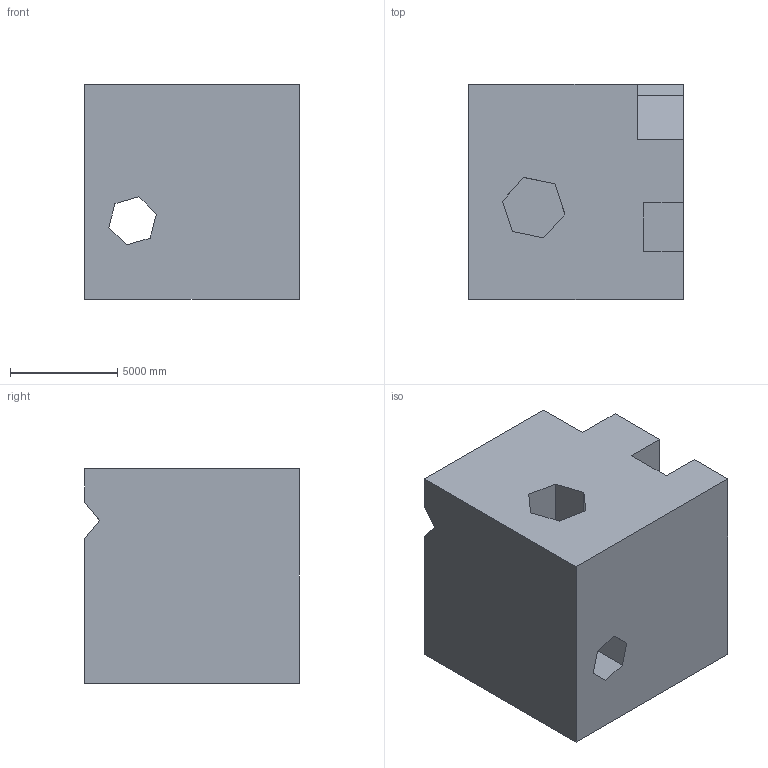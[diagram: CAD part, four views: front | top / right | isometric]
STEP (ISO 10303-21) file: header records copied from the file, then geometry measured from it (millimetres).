
FILE_DESCRIPTION (( 'STEP AP203' ), '1' );
FILE_NAME ('556.STEP', '2022-07-29T11:48:19', ( 'user' ), ( '' ), 'SwSTEP 2.0', 'SolidWorks 2021', '' );
FILE_SCHEMA (( 'CONFIG_CONTROL_DESIGN' ));
Length unit declared in the file: centimetre
Products named in the file (1): 556
Bounding box: 10000 x 10000 x 10000 mm (x, y, z)
Volume: 891360839802.7 mm3; surface area: 729257639.7 mm2
Topology: 1 solids, 1 shells, 32 faces, 87 edges, 58 vertices
Faces by surface type: plane 32
Entity records: 1072 total; most frequent: CARTESIAN_POINT 178, ORIENTED_EDGE 174, DIRECTION 153, LINE 87, EDGE_CURVE 87, VECTOR 87, VERTEX_POINT 58, EDGE_LOOP 35
